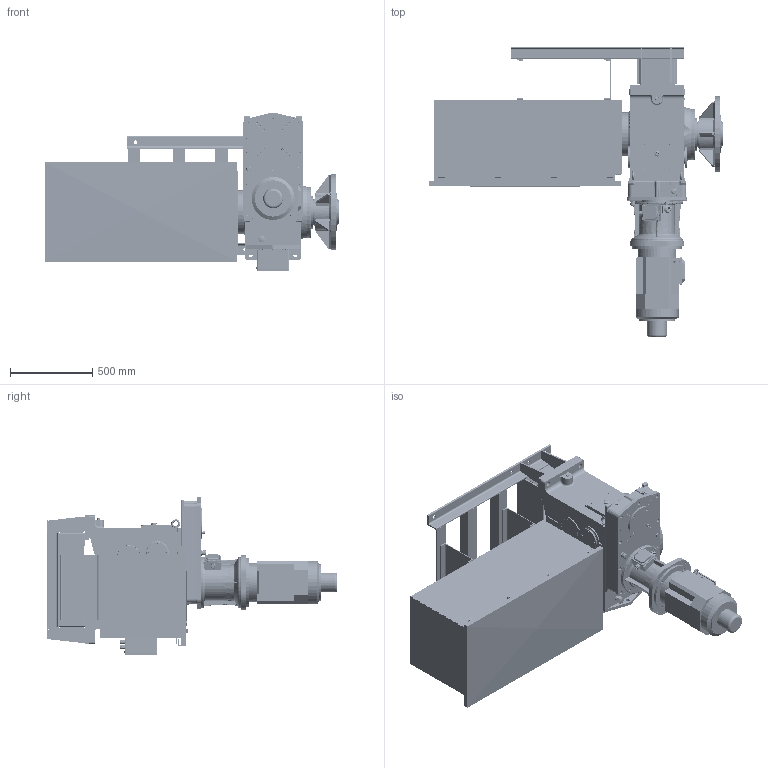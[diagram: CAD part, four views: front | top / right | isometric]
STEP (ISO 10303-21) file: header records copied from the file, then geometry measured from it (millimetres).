
FILE_DESCRIPTION(/* description */ (''),/* implementation_level */ '2;1');
FILE_NAME(/* name */ 'K:\NEMANJA\CABLE REEL\CABLE REEL DA\0700-6\07006005 DA-CRVD\STEP\75978.stp',/* time_stamp */ '2017-03-16T14:10:33+01:00',/* author */ ('zeldjo01'),/* organization */ ('Hillmar Industries Ltd.'),/* preprocessor_version */ 'ST-DEVELOPER v16.1',/* originating_system */ 'Autodesk Inventor 2016',/* authorisation */ '');
FILE_SCHEMA (('AUTOMOTIVE_DESIGN { 1 0 10303 214 3 1 1 }'));
Products named in the file (1): 75978
Bounding box: 1786.25 x 1764.09 x 960.37 mm (x, y, z)
Volume: 114362999.7 mm3; surface area: 16368692 mm2
Topology: 13 solids, 13 shells, 4709 faces, 12442 edges, 7985 vertices
Faces by surface type: plane 1996, cylinder 1503, bspline 591, cone 347, torus 233, sphere 39
Full cylindrical faces by diameter (mm): 7 x4, 8 x2, 8.376 x16, 8.731 x1, 10 x25, 10.106 x74, 10.38 x1, 11 x20, 12 x2, 12.5 x6, 13 x35, 13.2 x1, 13.5 x12, 14 x12, 15 x5, 16 x2, 16.974 x3, 17.475 x1, 18 x6, 18.256 x3, 18.38 x4, 20 x20, 20.5 x4, 22 x23, 22.3 x4, 23.812 x2, 24.917 x1, 24.918 x1, 25 x8, 26.645 x1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
Entity records: 161522 total; most frequent: CARTESIAN_POINT 47194, ORIENTED_EDGE 22798, DIRECTION 21556, EDGE_CURVE 11381, AXIS2_PLACEMENT_3D 7920, VERTEX_POINT 7625, EDGE_LOOP 5911, LINE 5716
